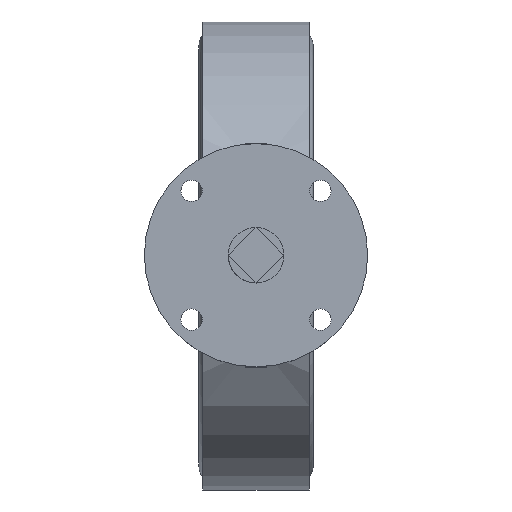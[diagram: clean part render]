
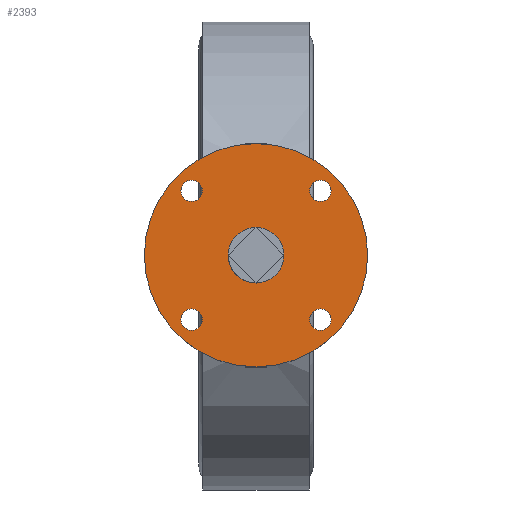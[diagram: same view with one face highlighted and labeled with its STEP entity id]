
A CAD part, top view. The second image highlights one B-rep face of the part: STEP entity #2393.
In plain terms, the highlighted planar face has unit normal (0, 0, 1).
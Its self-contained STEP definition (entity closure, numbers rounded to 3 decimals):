
#2393=ADVANCED_FACE('',(#5289,#5291,#5293,#5295,#5297,#5299),#5301,.T.);
#5289=FACE_BOUND('',#5290,.T.);
#5290=EDGE_LOOP('',(#8092));
#5291=FACE_BOUND('',#5292,.T.);
#5292=EDGE_LOOP('',(#8093));
#5293=FACE_BOUND('',#5294,.T.);
#5294=EDGE_LOOP('',(#8094));
#5295=FACE_BOUND('',#5296,.T.);
#5296=EDGE_LOOP('',(#8095));
#5297=FACE_BOUND('',#5298,.T.);
#5298=EDGE_LOOP('',(#8096));
#5299=FACE_BOUND('',#5300,.T.);
#5300=EDGE_LOOP('',(#8097));
#5301=PLANE('',#5302);
#5302=AXIS2_PLACEMENT_3D('',#5303,#5304,#5305);
#5303=CARTESIAN_POINT('',(0.,0.,243.));
#5304=DIRECTION('',(0.,0.,1.));
#5305=DIRECTION('',(0.,-1.,0.));
#8092=ORIENTED_EDGE('',*,*,#9370,.T.);
#8093=ORIENTED_EDGE('',*,*,#9449,.T.);
#8094=ORIENTED_EDGE('',*,*,#9371,.T.);
#8095=ORIENTED_EDGE('',*,*,#9372,.T.);
#8096=ORIENTED_EDGE('',*,*,#9373,.T.);
#8097=ORIENTED_EDGE('',*,*,#9374,.T.);
#9370=EDGE_CURVE('',#10922,#10922,#10923,.T.);
#9371=EDGE_CURVE('',#10924,#10924,#10925,.F.);
#9372=EDGE_CURVE('',#10926,#10926,#10927,.F.);
#9373=EDGE_CURVE('',#10928,#10928,#10929,.F.);
#9374=EDGE_CURVE('',#10930,#10930,#10931,.F.);
#9449=EDGE_CURVE('',#11053,#11053,#11054,.F.);
#10922=VERTEX_POINT('',#15072);
#10923=CIRCLE('',#15073,62.5);
#10924=VERTEX_POINT('',#15077);
#10925=CIRCLE('',#15078,6.);
#10926=VERTEX_POINT('',#15082);
#10927=CIRCLE('',#15083,6.);
#10928=VERTEX_POINT('',#15087);
#10929=CIRCLE('',#15088,6.);
#10930=VERTEX_POINT('',#15092);
#10931=CIRCLE('',#15093,6.);
#11053=VERTEX_POINT('',#15492);
#11054=CIRCLE('',#15493,15.556);
#15072=CARTESIAN_POINT('',(-62.5,0.,243.));
#15073=AXIS2_PLACEMENT_3D('',#15074,#15075,#15076);
#15074=CARTESIAN_POINT('',(0.,0.,243.));
#15075=DIRECTION('',(0.,0.,1.));
#15076=DIRECTION('',(-1.,0.,0.));
#15077=CARTESIAN_POINT('',(-42.062,-36.062,243.));
#15078=AXIS2_PLACEMENT_3D('',#15079,#15080,#15081);
#15079=CARTESIAN_POINT('',(-36.062,-36.062,243.));
#15080=DIRECTION('',(0.,0.,1.));
#15081=DIRECTION('',(-1.,0.,0.));
#15082=CARTESIAN_POINT('',(36.062,-42.062,243.));
#15083=AXIS2_PLACEMENT_3D('',#15084,#15085,#15086);
#15084=CARTESIAN_POINT('',(36.062,-36.062,243.));
#15085=DIRECTION('',(0.,0.,1.));
#15086=DIRECTION('',(0.,-1.,0.));
#15087=CARTESIAN_POINT('',(42.062,36.062,243.));
#15088=AXIS2_PLACEMENT_3D('',#15089,#15090,#15091);
#15089=CARTESIAN_POINT('',(36.062,36.062,243.));
#15090=DIRECTION('',(0.,0.,1.));
#15091=DIRECTION('',(1.,0.,0.));
#15092=CARTESIAN_POINT('',(-36.062,42.062,243.));
#15093=AXIS2_PLACEMENT_3D('',#15094,#15095,#15096);
#15094=CARTESIAN_POINT('',(-36.062,36.062,243.));
#15095=DIRECTION('',(0.,0.,1.));
#15096=DIRECTION('',(0.,1.,0.));
#15492=CARTESIAN_POINT('',(0.,-15.556,243.));
#15493=AXIS2_PLACEMENT_3D('',#15494,#15495,#15496);
#15494=CARTESIAN_POINT('',(0.,0.,243.));
#15495=DIRECTION('',(0.,0.,1.));
#15496=DIRECTION('',(0.,-1.,0.));
